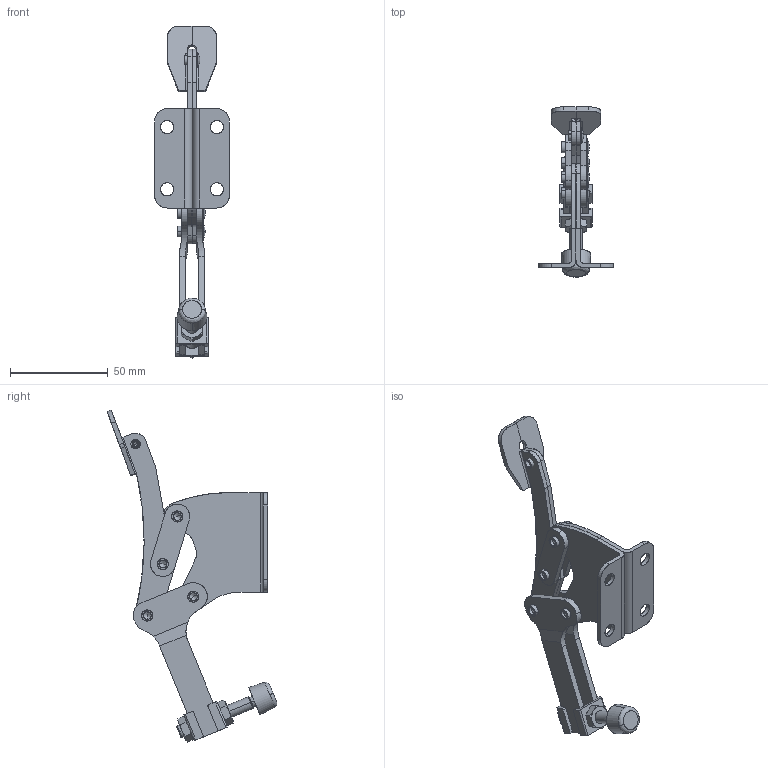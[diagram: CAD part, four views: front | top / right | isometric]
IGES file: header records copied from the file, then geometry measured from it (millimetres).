
Start section: SolidWorks IGES file using analytic representation for surfaces
Global section: file name: C:\lapeer-mfg\H-400\iges\H-400x20.IGS; native system: SolidWorks 2005 by SolidWorks Corporation; preprocessor: SolidWorks 2005 by SolidWorks Corporation; author: rtaylor; date: 050206.084620; units: inch
Bounding box: 38.1 x 86.7 x 169.49 mm (x, y, z)
Surface area: 36489.4 mm2 (no closed solid volume)
Topology: 0 solids, 0 shells, 396 faces, 5828 edges, 5818 vertices
Faces by surface type: revolution 205, bspline 191
